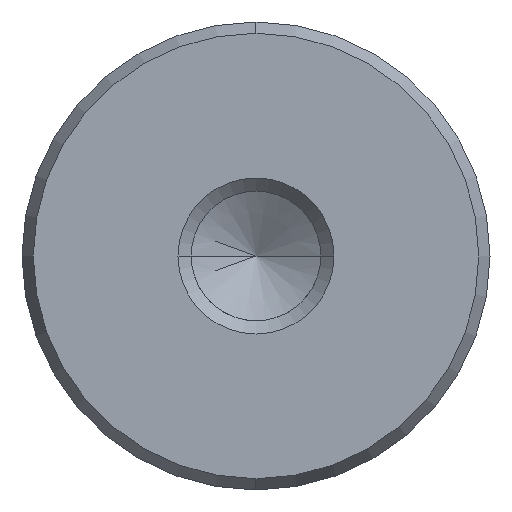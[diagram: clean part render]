
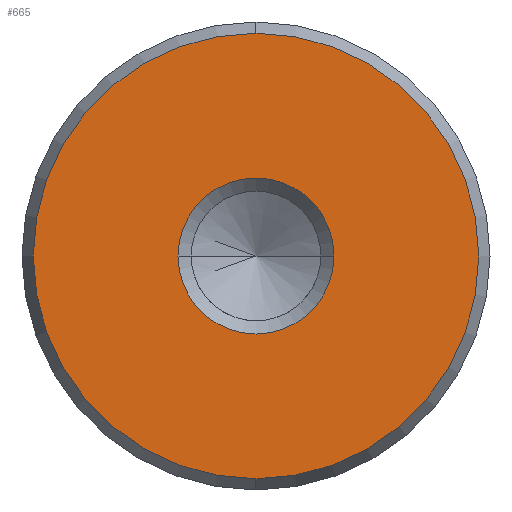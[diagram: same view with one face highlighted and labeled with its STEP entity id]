
A CAD part, left-side view. The second image highlights one B-rep face of the part: STEP entity #665.
In plain terms, the highlighted planar face has unit normal (-1, 0, 0).
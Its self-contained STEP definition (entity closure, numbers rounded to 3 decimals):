
#579=CARTESIAN_POINT('Vertex',(0.,0.,-11.423)) ;
#582=CARTESIAN_POINT('Axis2P3D Location',(0.,0.,0.)) ;
#586=CARTESIAN_POINT('Vertex',(0.,11.423,0.)) ;
#589=CARTESIAN_POINT('Axis2P3D Location',(0.,0.,0.)) ;
#593=CARTESIAN_POINT('Vertex',(0.,0.,11.423)) ;
#615=CARTESIAN_POINT('Axis2P3D Location',(0.,0.,0.)) ;
#619=CARTESIAN_POINT('Vertex',(0.,-11.423,0.)) ;
#622=CARTESIAN_POINT('Axis2P3D Location',(0.,0.,0.)) ;
#636=CARTESIAN_POINT('Axis2P3D Location',(0.,0.,0.)) ;
#647=CARTESIAN_POINT('Axis2P3D Location',(0.,0.,0.)) ;
#651=CARTESIAN_POINT('Vertex',(0.,4.,0.)) ;
#653=CARTESIAN_POINT('Vertex',(0.,-4.,0.)) ;
#656=CARTESIAN_POINT('Axis2P3D Location',(0.,0.,0.)) ;
#583=DIRECTION('Axis2P3D Direction',(1.,0.,-0.)) ;
#590=DIRECTION('Axis2P3D Direction',(1.,0.,-0.)) ;
#616=DIRECTION('Axis2P3D Direction',(1.,0.,-0.)) ;
#623=DIRECTION('Axis2P3D Direction',(1.,0.,-0.)) ;
#637=DIRECTION('Axis2P3D Direction',(1.,0.,-0.)) ;
#638=DIRECTION('Axis2P3D XDirection',(-0.,0.,-1.)) ;
#648=DIRECTION('Axis2P3D Direction',(1.,0.,-0.)) ;
#657=DIRECTION('Axis2P3D Direction',(1.,0.,-0.)) ;
#584=AXIS2_PLACEMENT_3D('Circle Axis2P3D',#582,#583,$) ;
#591=AXIS2_PLACEMENT_3D('Circle Axis2P3D',#589,#590,$) ;
#617=AXIS2_PLACEMENT_3D('Circle Axis2P3D',#615,#616,$) ;
#624=AXIS2_PLACEMENT_3D('Circle Axis2P3D',#622,#623,$) ;
#639=AXIS2_PLACEMENT_3D('Plane Axis2P3D',#636,#637,#638) ;
#649=AXIS2_PLACEMENT_3D('Circle Axis2P3D',#647,#648,$) ;
#658=AXIS2_PLACEMENT_3D('Circle Axis2P3D',#656,#657,$) ;
#642=ORIENTED_EDGE('',*,*,#588,.F.) ;
#643=ORIENTED_EDGE('',*,*,#626,.F.) ;
#644=ORIENTED_EDGE('',*,*,#621,.F.) ;
#645=ORIENTED_EDGE('',*,*,#595,.F.) ;
#662=ORIENTED_EDGE('',*,*,#655,.T.) ;
#663=ORIENTED_EDGE('',*,*,#660,.T.) ;
#664=FACE_BOUND('',#661,.T.) ;
#665=ADVANCED_FACE('720-24x125',(#646,#664),#640,.F.) ;
#585=CIRCLE('generated circle',#584,11.423) ;
#592=CIRCLE('generated circle',#591,11.423) ;
#618=CIRCLE('generated circle',#617,11.423) ;
#625=CIRCLE('generated circle',#624,11.423) ;
#650=CIRCLE('generated circle',#649,4.) ;
#659=CIRCLE('generated circle',#658,4.) ;
#588=EDGE_CURVE('',#580,#587,#585,.T.) ;
#595=EDGE_CURVE('',#587,#594,#592,.T.) ;
#621=EDGE_CURVE('',#594,#620,#618,.T.) ;
#626=EDGE_CURVE('',#620,#580,#625,.T.) ;
#655=EDGE_CURVE('',#652,#654,#650,.T.) ;
#660=EDGE_CURVE('',#654,#652,#659,.T.) ;
#641=EDGE_LOOP('',(#642,#643,#644,#645)) ;
#661=EDGE_LOOP('',(#662,#663)) ;
#646=FACE_OUTER_BOUND('',#641,.T.) ;
#640=PLANE('Plane',#639) ;
#580=VERTEX_POINT('',#579) ;
#587=VERTEX_POINT('',#586) ;
#594=VERTEX_POINT('',#593) ;
#620=VERTEX_POINT('',#619) ;
#652=VERTEX_POINT('',#651) ;
#654=VERTEX_POINT('',#653) ;
